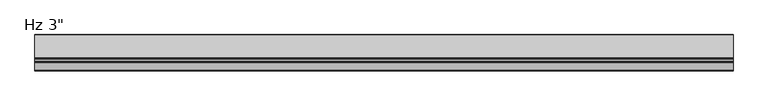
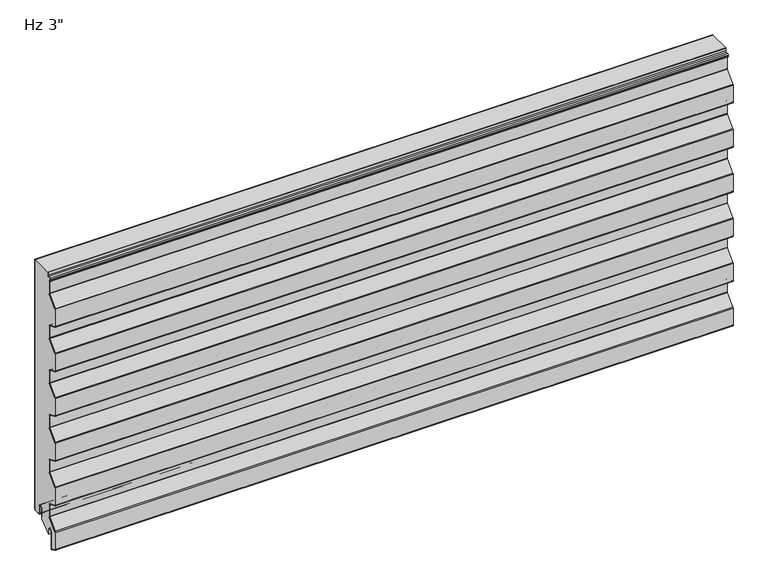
"""IFC4 building model written with IfcOpenShell, lengths in millimetres: plate geometry."""

from ifc_helpers import new_model, si_unit, point, frame, frame_2d, origin, place, context, project, spatial, polyline, circle_curve, trimmed, segment, composite_curve, outline, extrude, source, transform, mapped, element, save


def plate_af4c6692(model_context):
    return source(origin(), model_context, "Body", "SweptSolid", [
        extrude(outline(composite_curve([segment(polyline([(-26.4011912, 19.05), (-26.4011912, -3.1976612), (-49.233822, -23.01875), (-51.3886912, -23.01875), (-51.3886912, -11.90625)]), True, "CONTINUOUS"), segment(trimmed(circle_curve(frame_2d((-56.3574412, -11.90625)), 4.96875), [point((-51.3886912, -11.90625))], [point((-61.3261912, -11.90625))], True, "CARTESIAN"), True, "CONTINUOUS"), segment(polyline([(-61.3261912, -11.90625), (-61.3261912, -48.8194049)]), True, "CONTINUOUS"), segment(trimmed(circle_curve(frame_2d((-62.7074412, -48.8194049)), 1.38125), [point((-61.3261912, -48.8194049))], [point((-63.2666208, -50.0824052))], False, "CARTESIAN"), True, "CONTINUOUS"), segment(polyline([(-63.2666208, -50.0824052), (-74.3779296, -45.1629946)]), True, "CONTINUOUS"), segment(trimmed(circle_curve(frame_2d((-73.81875, -43.8999943)), 1.38125), [point((-74.3779296, -45.1629946))], [point((-75.2, -43.8999943))], False, "CARTESIAN"), True, "CONTINUOUS"), segment(polyline([(-75.2, -43.8999943), (-75.2, -5.0536946)]), True, "CONTINUOUS"), segment(trimmed(circle_curve(frame_2d((-73.1012, -5.0536946)), 2.0988), [point((-75.2, -5.0536946))], [point((-74.6092077, -3.5939431))], False, "CARTESIAN"), True, "CONTINUOUS"), segment(polyline([(-74.6092077, -3.5939431), (-54.4145567, 17.2682996)]), True, "CONTINUOUS"), segment(trimmed(circle_curve(frame_2d((-56.2737, 19.0679503)), 2.5875), [point((-54.4145567, 17.2682996))], [point((-53.6862, 19.0679503))], True, "CARTESIAN"), True, "CONTINUOUS"), segment(polyline([(-53.6862, 19.0679503), (-53.6862, 45.5917981)]), True, "CONTINUOUS"), segment(trimmed(circle_curve(frame_2d((-56.2737, 45.5917981)), 2.5875), [point((-53.6862, 45.5917981))], [point((-55.2261871, 47.9577806))], True, "CARTESIAN"), True, "CONTINUOUS"), segment(polyline([(-55.2261871, 47.9577806), (-74.3779296, 56.4370054)]), True, "CONTINUOUS"), segment(trimmed(circle_curve(frame_2d((-73.81875, 57.7000057)), 1.38125), [point((-74.3779296, 56.4370054))], [point((-75.2, 57.7000057))], False, "CARTESIAN"), True, "CONTINUOUS"), segment(polyline([(-75.2, 57.7000057), (-75.2, 96.8367131)]), True, "CONTINUOUS"), segment(trimmed(circle_curve(frame_2d((-73.81875, 96.8367131)), 1.38125), [point((-75.2, 96.8367131))], [point((-74.8111912, 97.7973962))], False, "CARTESIAN"), True, "CONTINUOUS"), segment(polyline([(-74.8111912, 97.7973962), (-54.4145567, 118.8682996)]), True, "CONTINUOUS"), segment(trimmed(circle_curve(frame_2d((-56.2737, 120.6679503)), 2.5875), [point((-54.4145567, 118.8682996))], [point((-53.6862, 120.6679503))], True, "CARTESIAN"), True, "CONTINUOUS"), segment(polyline([(-53.6862, 120.6679503), (-53.6862, 147.1917981)]), True, "CONTINUOUS"), segment(trimmed(circle_curve(frame_2d((-56.2737, 147.1917981)), 2.5875), [point((-53.6862, 147.1917981))], [point((-55.2261871, 149.5577806))], True, "CARTESIAN"), True, "CONTINUOUS"), segment(polyline([(-55.2261871, 149.5577806), (-74.3779296, 158.0370054)]), True, "CONTINUOUS"), segment(trimmed(circle_curve(frame_2d((-73.81875, 159.3000057)), 1.38125), [point((-74.3779296, 158.0370054))], [point((-75.2, 159.3000057))], False, "CARTESIAN"), True, "CONTINUOUS"), segment(polyline([(-75.2, 159.3000057), (-75.2, 198.4367131)]), True, "CONTINUOUS"), segment(trimmed(circle_curve(frame_2d((-73.81875, 198.4367131)), 1.38125), [point((-75.2, 198.4367131))], [point((-74.8111912, 199.3973962))], False, "CARTESIAN"), True, "CONTINUOUS"), segment(polyline([(-74.8111912, 199.3973962), (-54.4145567, 220.4682996)]), True, "CONTINUOUS"), segment(trimmed(circle_curve(frame_2d((-56.2737, 222.2679503)), 2.5875), [point((-54.4145567, 220.4682996))], [point((-53.6862, 222.2679503))], True, "CARTESIAN"), True, "CONTINUOUS"), segment(polyline([(-53.6862, 222.2679503), (-53.6862, 248.7917981)]), True, "CONTINUOUS"), segment(trimmed(circle_curve(frame_2d((-56.2737, 248.7917981)), 2.5875), [point((-53.6862, 248.7917981))], [point((-55.2261871, 251.1577806))], True, "CARTESIAN"), True, "CONTINUOUS"), segment(polyline([(-55.2261871, 251.1577806), (-74.3779296, 259.6370054)]), True, "CONTINUOUS"), segment(trimmed(circle_curve(frame_2d((-73.81875, 260.9000057)), 1.38125), [point((-74.3779296, 259.6370054))], [point((-75.2, 260.9000057))], False, "CARTESIAN"), True, "CONTINUOUS"), segment(polyline([(-75.2, 260.9000057), (-75.2, 300.0367131)]), True, "CONTINUOUS"), segment(trimmed(circle_curve(frame_2d((-73.81875, 300.0367131)), 1.38125), [point((-75.2, 300.0367131))], [point((-74.8111912, 300.9973962))], False, "CARTESIAN"), True, "CONTINUOUS"), segment(polyline([(-74.8111912, 300.9973962), (-54.4145567, 322.0682996)]), True, "CONTINUOUS"), segment(trimmed(circle_curve(frame_2d((-56.2737, 323.8679503)), 2.5875), [point((-54.4145567, 322.0682996))], [point((-53.6862, 323.8679503))], True, "CARTESIAN"), True, "CONTINUOUS"), segment(polyline([(-53.6862, 323.8679503), (-53.6862, 350.3917981)]), True, "CONTINUOUS"), segment(trimmed(circle_curve(frame_2d((-56.2737, 350.3917981)), 2.5875), [point((-53.6862, 350.3917981))], [point((-55.2261871, 352.7577806))], True, "CARTESIAN"), True, "CONTINUOUS"), segment(polyline([(-55.2261871, 352.7577806), (-74.3779296, 361.2370054)]), True, "CONTINUOUS"), segment(trimmed(circle_curve(frame_2d((-73.81875, 362.5000057)), 1.38125), [point((-74.3779296, 361.2370054))], [point((-75.2, 362.5000057))], False, "CARTESIAN"), True, "CONTINUOUS"), segment(polyline([(-75.2, 362.5000057), (-75.2, 401.6367131)]), True, "CONTINUOUS"), segment(trimmed(circle_curve(frame_2d((-73.81875, 401.6367131)), 1.38125), [point((-75.2, 401.6367131))], [point((-74.8111912, 402.5973962))], False, "CARTESIAN"), True, "CONTINUOUS"), segment(polyline([(-74.8111912, 402.5973962), (-54.4145567, 423.6682996)]), True, "CONTINUOUS"), segment(trimmed(circle_curve(frame_2d((-56.2737, 425.4679503)), 2.5875), [point((-54.4145567, 423.6682996))], [point((-53.6862, 425.4679503))], True, "CARTESIAN"), True, "CONTINUOUS"), segment(polyline([(-53.6862, 425.4679503), (-53.6862, 451.9917981)]), True, "CONTINUOUS"), segment(trimmed(circle_curve(frame_2d((-56.2737, 451.9917981)), 2.5875), [point((-53.6862, 451.9917981))], [point((-55.2261871, 454.3577806))], True, "CARTESIAN"), True, "CONTINUOUS"), segment(polyline([(-55.2261871, 454.3577806), (-74.3779296, 462.8370054)]), True, "CONTINUOUS"), segment(trimmed(circle_curve(frame_2d((-73.81875, 464.1000057)), 1.38125), [point((-74.3779296, 462.8370054))], [point((-75.2, 464.1000057))], False, "CARTESIAN"), True, "CONTINUOUS"), segment(polyline([(-75.2, 464.1000057), (-75.2, 503.2367131)]), True, "CONTINUOUS"), segment(trimmed(circle_curve(frame_2d((-73.81875, 503.2367131)), 1.38125), [point((-75.2, 503.2367131))], [point((-74.8111912, 504.1973962))], False, "CARTESIAN"), True, "CONTINUOUS"), segment(polyline([(-74.8111912, 504.1973962), (-54.4145567, 525.2682996)]), True, "CONTINUOUS"), segment(trimmed(circle_curve(frame_2d((-56.2737, 527.0679503)), 2.5875), [point((-54.4145567, 525.2682996))], [point((-53.6862, 527.0679503))], True, "CARTESIAN"), True, "CONTINUOUS"), segment(polyline([(-53.6862, 527.0679503), (-53.6862, 553.5917981)]), True, "CONTINUOUS"), segment(trimmed(circle_curve(frame_2d((-56.2737, 553.5917981)), 2.5875), [point((-53.6862, 553.5917981))], [point((-55.2261871, 555.9577806))], True, "CARTESIAN"), True, "CONTINUOUS"), segment(polyline([(-55.2261871, 555.9577806), (-56.9166208, 556.7062016)]), True, "CONTINUOUS"), segment(trimmed(circle_curve(frame_2d((-56.3574412, 557.9692019)), 1.38125), [point((-56.9166208, 556.7062016))], [point((-57.7386912, 557.9692019))], False, "CARTESIAN"), True, "CONTINUOUS"), segment(polyline([(-57.7386912, 557.9692019), (-57.7386912, 560.2967085)]), True, "CONTINUOUS"), segment(trimmed(circle_curve(frame_2d((-56.3574412, 560.2967085)), 1.38125), [point((-57.7386912, 560.2967085))], [point((-56.4297302, 561.6760655))], False, "CARTESIAN"), True, "CONTINUOUS"), segment(polyline([(-56.4297302, 561.6760655), (-50.6657719, 561.9781418)]), True, "CONTINUOUS"), segment(trimmed(circle_curve(frame_2d((-50.8011912, 564.5620957)), 2.5875), [point((-50.6657719, 561.9781418))], [point((-48.2136912, 564.5620957))], True, "CARTESIAN"), True, "CONTINUOUS"), segment(polyline([(-48.2136912, 564.5620957), (-48.2136912, 571.2), (-1.0011912, 571.2), (-1.0011912, 3.175)]), True, "CONTINUOUS"), segment(trimmed(circle_curve(frame_2d((-2.3824412, 3.175)), 1.38125), [point((-1.0011912, 3.175))], [point((-2.3824412, 1.79375))], False, "CARTESIAN"), True, "CONTINUOUS"), segment(polyline([(-2.3824412, 1.79375), (-15.0824412, 1.79375)]), True, "CONTINUOUS"), segment(trimmed(circle_curve(frame_2d((-15.0824412, 3.175)), 1.38125), [point((-15.0824412, 1.79375))], [point((-16.4636912, 3.175))], False, "CARTESIAN"), True, "CONTINUOUS"), segment(polyline([(-16.4636912, 3.175), (-16.4636912, 19.05)]), True, "CONTINUOUS"), segment(trimmed(circle_curve(frame_2d((-21.4324412, 19.05)), 4.96875), [point((-16.4636912, 19.05))], [point((-26.4011912, 19.05))], True, "CARTESIAN"), True, "CONTINUOUS")], self_intersect=False)), frame((-730.0, 0.0, 0.0), z_axis=(1.0, 0.0, 0.0), x_axis=(0.0, 1.0, 0.0)), (0.0, 0.0, 1.0), 1460.0),
        extrude(outline(composite_curve([segment(polyline([(-25.4, 0.79375), (-26.4, 0.79375), (-26.4, 19.05)]), True, "CONTINUOUS"), segment(trimmed(circle_curve(frame_2d((-21.43125, 19.05)), 4.96875), [point((-26.4, 19.05))], [point((-16.4625, 19.05))], False, "CARTESIAN"), True, "CONTINUOUS"), segment(polyline([(-16.4625, 19.05), (-16.4625, 3.175)]), True, "CONTINUOUS"), segment(trimmed(circle_curve(frame_2d((-15.08125, 3.175)), 1.38125), [point((-16.4625, 3.175))], [point((-15.08125, 1.79375))], True, "CARTESIAN"), True, "CONTINUOUS"), segment(polyline([(-15.08125, 1.79375), (-2.38125, 1.79375)]), True, "CONTINUOUS"), segment(trimmed(circle_curve(frame_2d((-2.38125, 3.175)), 1.38125), [point((-2.38125, 1.79375))], [point((-1.0, 3.175))], True, "CARTESIAN"), True, "CONTINUOUS"), segment(polyline([(-1.0, 3.175), (-1.0, 571.2), (0.0, 571.2), (0.0, 3.175)]), True, "CONTINUOUS"), segment(trimmed(circle_curve(frame_2d((-2.38125, 3.175)), 2.38125), [point((0.0, 3.175))], [point((-2.38125, 0.79375))], False, "CARTESIAN"), True, "CONTINUOUS"), segment(polyline([(-2.38125, 0.79375), (-15.08125, 0.79375)]), True, "CONTINUOUS"), segment(trimmed(circle_curve(frame_2d((-15.08125, 3.175)), 2.38125), [point((-15.08125, 0.79375))], [point((-17.4625, 3.175))], False, "CARTESIAN"), True, "CONTINUOUS"), segment(polyline([(-17.4625, 3.175), (-17.4625, 19.05)]), True, "CONTINUOUS"), segment(trimmed(circle_curve(frame_2d((-21.43125, 19.05)), 3.96875), [point((-17.4625, 19.05))], [point((-25.4, 19.05))], True, "CARTESIAN"), True, "CONTINUOUS"), segment(polyline([(-25.4, 19.05), (-25.4, 0.79375)]), True, "CONTINUOUS")], self_intersect=False)), frame((-730.0, 0.0, 0.0), z_axis=(1.0, 0.0, 0.0), x_axis=(0.0, 1.0, 0.0)), (0.0, 0.0, 1.0), 1460.0),
        extrude(outline(composite_curve([segment(polyline([(-60.3261912, -11.90625), (-60.3261912, -48.8194049)]), True, "CONTINUOUS"), segment(trimmed(circle_curve(frame_2d((-62.7074412, -48.8194049)), 2.38125), [point((-60.3261912, -48.8194049))], [point((-63.6714567, -50.9967946))], False, "CARTESIAN"), True, "CONTINUOUS"), segment(polyline([(-63.6714567, -50.9967946), (-74.7827655, -46.0773839)]), True, "CONTINUOUS"), segment(trimmed(circle_curve(frame_2d((-73.81875, -43.8999943)), 2.38125), [point((-74.7827655, -46.0773839))], [point((-76.2, -43.8999943))], False, "CARTESIAN"), True, "CONTINUOUS"), segment(polyline([(-76.2, -43.8999943), (-76.2, -5.0536946)]), True, "CONTINUOUS"), segment(trimmed(circle_curve(frame_2d((-73.1012, -5.0536946)), 3.0988), [point((-76.2, -5.0536946))], [point((-75.3277172, -2.8984259))], False, "CARTESIAN"), True, "CONTINUOUS"), segment(polyline([(-75.3277172, -2.8984259), (-55.1330662, 17.9638168)]), True, "CONTINUOUS"), segment(trimmed(circle_curve(frame_2d((-56.2737, 19.0679503)), 1.5875), [point((-55.1330662, 17.9638168))], [point((-54.6862, 19.0679503))], True, "CARTESIAN"), True, "CONTINUOUS"), segment(polyline([(-54.6862, 19.0679503), (-54.6862, 45.5917981)]), True, "CONTINUOUS"), segment(trimmed(circle_curve(frame_2d((-56.2737, 45.5917981)), 1.5875), [point((-54.6862, 45.5917981))], [point((-55.631023, 47.0433912))], True, "CARTESIAN"), True, "CONTINUOUS"), segment(polyline([(-55.631023, 47.0433912), (-74.7827655, 55.5226161)]), True, "CONTINUOUS"), segment(trimmed(circle_curve(frame_2d((-73.81875, 57.7000057)), 2.38125), [point((-74.7827655, 55.5226161))], [point((-76.2, 57.7000057))], False, "CARTESIAN"), True, "CONTINUOUS"), segment(polyline([(-76.2, 57.7000057), (-76.2, 96.8367131)]), True, "CONTINUOUS"), segment(trimmed(circle_curve(frame_2d((-73.81875, 96.8367131)), 2.38125), [point((-76.2, 96.8367131))], [point((-75.5297007, 98.4929134))], False, "CARTESIAN"), True, "CONTINUOUS"), segment(polyline([(-75.5297007, 98.4929134), (-55.1330662, 119.5638168)]), True, "CONTINUOUS"), segment(trimmed(circle_curve(frame_2d((-56.2737, 120.6679503)), 1.5875), [point((-55.1330662, 119.5638168))], [point((-54.6862, 120.6679503))], True, "CARTESIAN"), True, "CONTINUOUS"), segment(polyline([(-54.6862, 120.6679503), (-54.6862, 147.1917981)]), True, "CONTINUOUS"), segment(trimmed(circle_curve(frame_2d((-56.2737, 147.1917981)), 1.5875), [point((-54.6862, 147.1917981))], [point((-55.631023, 148.6433912))], True, "CARTESIAN"), True, "CONTINUOUS"), segment(polyline([(-55.631023, 148.6433912), (-74.7827655, 157.1226161)]), True, "CONTINUOUS"), segment(trimmed(circle_curve(frame_2d((-73.81875, 159.3000057)), 2.38125), [point((-74.7827655, 157.1226161))], [point((-76.2, 159.3000057))], False, "CARTESIAN"), True, "CONTINUOUS"), segment(polyline([(-76.2, 159.3000057), (-76.2, 198.4367131)]), True, "CONTINUOUS"), segment(trimmed(circle_curve(frame_2d((-73.81875, 198.4367131)), 2.38125), [point((-76.2, 198.4367131))], [point((-75.5297007, 200.0929134))], False, "CARTESIAN"), True, "CONTINUOUS"), segment(polyline([(-75.5297007, 200.0929134), (-55.1330662, 221.1638168)]), True, "CONTINUOUS"), segment(trimmed(circle_curve(frame_2d((-56.2737, 222.2679503)), 1.5875), [point((-55.1330662, 221.1638168))], [point((-54.6862, 222.2679503))], True, "CARTESIAN"), True, "CONTINUOUS"), segment(polyline([(-54.6862, 222.2679503), (-54.6862, 248.7917981)]), True, "CONTINUOUS"), segment(trimmed(circle_curve(frame_2d((-56.2737, 248.7917981)), 1.5875), [point((-54.6862, 248.7917981))], [point((-55.631023, 250.2433912))], True, "CARTESIAN"), True, "CONTINUOUS"), segment(polyline([(-55.631023, 250.2433912), (-74.7827655, 258.7226161)]), True, "CONTINUOUS"), segment(trimmed(circle_curve(frame_2d((-73.81875, 260.9000057)), 2.38125), [point((-74.7827655, 258.7226161))], [point((-76.2, 260.9000057))], False, "CARTESIAN"), True, "CONTINUOUS"), segment(polyline([(-76.2, 260.9000057), (-76.2, 300.0367131)]), True, "CONTINUOUS"), segment(trimmed(circle_curve(frame_2d((-73.81875, 300.0367131)), 2.38125), [point((-76.2, 300.0367131))], [point((-75.5297007, 301.6929134))], False, "CARTESIAN"), True, "CONTINUOUS"), segment(polyline([(-75.5297007, 301.6929134), (-55.1330662, 322.7638168)]), True, "CONTINUOUS"), segment(trimmed(circle_curve(frame_2d((-56.2737, 323.8679503)), 1.5875), [point((-55.1330662, 322.7638168))], [point((-54.6862, 323.8679503))], True, "CARTESIAN"), True, "CONTINUOUS"), segment(polyline([(-54.6862, 323.8679503), (-54.6862, 350.3917981)]), True, "CONTINUOUS"), segment(trimmed(circle_curve(frame_2d((-56.2737, 350.3917981)), 1.5875), [point((-54.6862, 350.3917981))], [point((-55.631023, 351.8433912))], True, "CARTESIAN"), True, "CONTINUOUS"), segment(polyline([(-55.631023, 351.8433912), (-74.7827655, 360.3226161)]), True, "CONTINUOUS"), segment(trimmed(circle_curve(frame_2d((-73.81875, 362.5000057)), 2.38125), [point((-74.7827655, 360.3226161))], [point((-76.2, 362.5000057))], False, "CARTESIAN"), True, "CONTINUOUS"), segment(polyline([(-76.2, 362.5000057), (-76.2, 401.6367131)]), True, "CONTINUOUS"), segment(trimmed(circle_curve(frame_2d((-73.81875, 401.6367131)), 2.38125), [point((-76.2, 401.6367131))], [point((-75.5297007, 403.2929134))], False, "CARTESIAN"), True, "CONTINUOUS"), segment(polyline([(-75.5297007, 403.2929134), (-55.1330662, 424.3638168)]), True, "CONTINUOUS"), segment(trimmed(circle_curve(frame_2d((-56.2737, 425.4679503)), 1.5875), [point((-55.1330662, 424.3638168))], [point((-54.6862, 425.4679503))], True, "CARTESIAN"), True, "CONTINUOUS"), segment(polyline([(-54.6862, 425.4679503), (-54.6862, 451.9917981)]), True, "CONTINUOUS"), segment(trimmed(circle_curve(frame_2d((-56.2737, 451.9917981)), 1.5875), [point((-54.6862, 451.9917981))], [point((-55.631023, 453.4433912))], True, "CARTESIAN"), True, "CONTINUOUS"), segment(polyline([(-55.631023, 453.4433912), (-74.7827655, 461.9226161)]), True, "CONTINUOUS"), segment(trimmed(circle_curve(frame_2d((-73.81875, 464.1000057)), 2.38125), [point((-74.7827655, 461.9226161))], [point((-76.2, 464.1000057))], False, "CARTESIAN"), True, "CONTINUOUS"), segment(polyline([(-76.2, 464.1000057), (-76.2, 503.2367131)]), True, "CONTINUOUS"), segment(trimmed(circle_curve(frame_2d((-73.81875, 503.2367131)), 2.38125), [point((-76.2, 503.2367131))], [point((-75.5297007, 504.8929134))], False, "CARTESIAN"), True, "CONTINUOUS"), segment(polyline([(-75.5297007, 504.8929134), (-55.1330662, 525.9638168)]), True, "CONTINUOUS"), segment(trimmed(circle_curve(frame_2d((-56.2737, 527.0679503)), 1.5875), [point((-55.1330662, 525.9638168))], [point((-54.6862, 527.0679503))], True, "CARTESIAN"), True, "CONTINUOUS"), segment(polyline([(-54.6862, 527.0679503), (-54.6862, 553.5917981)]), True, "CONTINUOUS"), segment(trimmed(circle_curve(frame_2d((-56.2737, 553.5917981)), 1.5875), [point((-54.6862, 553.5917981))], [point((-55.631023, 555.0433912))], True, "CARTESIAN"), True, "CONTINUOUS"), segment(polyline([(-55.631023, 555.0433912), (-57.3214567, 555.7918123)]), True, "CONTINUOUS"), segment(trimmed(circle_curve(frame_2d((-56.3574412, 557.9692019)), 2.38125), [point((-57.3214567, 555.7918123))], [point((-58.7386912, 557.9692019))], False, "CARTESIAN"), True, "CONTINUOUS"), segment(polyline([(-58.7386912, 557.9692019), (-58.7386912, 560.2967085)]), True, "CONTINUOUS"), segment(trimmed(circle_curve(frame_2d((-56.3574412, 560.2967085)), 2.38125), [point((-58.7386912, 560.2967085))], [point((-56.4820662, 562.6746951))], False, "CARTESIAN"), True, "CONTINUOUS"), segment(polyline([(-56.4820662, 562.6746951), (-50.7181078, 562.9767713)]), True, "CONTINUOUS"), segment(trimmed(circle_curve(frame_2d((-50.8011912, 564.5620957)), 1.5875), [point((-50.7181078, 562.9767713))], [point((-49.2136912, 564.5620957))], True, "CARTESIAN"), True, "CONTINUOUS"), segment(polyline([(-49.2136912, 564.5620957), (-49.2136912, 571.2), (-48.2136912, 571.2), (-48.2136912, 564.5620957)]), True, "CONTINUOUS"), segment(trimmed(circle_curve(frame_2d((-50.8011912, 564.5620957)), 2.5875), [point((-48.2136912, 564.5620957))], [point((-50.6657719, 561.9781418))], False, "CARTESIAN"), True, "CONTINUOUS"), segment(polyline([(-50.6657719, 561.9781418), (-56.4297302, 561.6760655)]), True, "CONTINUOUS"), segment(trimmed(circle_curve(frame_2d((-56.3574412, 560.2967085)), 1.38125), [point((-56.4297302, 561.6760655))], [point((-57.7386912, 560.2967085))], True, "CARTESIAN"), True, "CONTINUOUS"), segment(polyline([(-57.7386912, 560.2967085), (-57.7386912, 557.9692019)]), True, "CONTINUOUS"), segment(trimmed(circle_curve(frame_2d((-56.3574412, 557.9692019)), 1.38125), [point((-57.7386912, 557.9692019))], [point((-56.9166208, 556.7062016))], True, "CARTESIAN"), True, "CONTINUOUS"), segment(polyline([(-56.9166208, 556.7062016), (-55.2261871, 555.9577806)]), True, "CONTINUOUS"), segment(trimmed(circle_curve(frame_2d((-56.2737, 553.5917981)), 2.5875), [point((-55.2261871, 555.9577806))], [point((-53.6862, 553.5917981))], False, "CARTESIAN"), True, "CONTINUOUS"), segment(polyline([(-53.6862, 553.5917981), (-53.6862, 527.0679503)]), True, "CONTINUOUS"), segment(trimmed(circle_curve(frame_2d((-56.2737, 527.0679503)), 2.5875), [point((-53.6862, 527.0679503))], [point((-54.4145567, 525.2682996))], False, "CARTESIAN"), True, "CONTINUOUS"), segment(polyline([(-54.4145567, 525.2682996), (-74.8111912, 504.1973962)]), True, "CONTINUOUS"), segment(trimmed(circle_curve(frame_2d((-73.81875, 503.2367131)), 1.38125), [point((-74.8111912, 504.1973962))], [point((-75.2, 503.2367131))], True, "CARTESIAN"), True, "CONTINUOUS"), segment(polyline([(-75.2, 503.2367131), (-75.2, 464.1000057)]), True, "CONTINUOUS"), segment(trimmed(circle_curve(frame_2d((-73.81875, 464.1000057)), 1.38125), [point((-75.2, 464.1000057))], [point((-74.3779296, 462.8370054))], True, "CARTESIAN"), True, "CONTINUOUS"), segment(polyline([(-74.3779296, 462.8370054), (-55.2261871, 454.3577806)]), True, "CONTINUOUS"), segment(trimmed(circle_curve(frame_2d((-56.2737, 451.9917981)), 2.5875), [point((-55.2261871, 454.3577806))], [point((-53.6862, 451.9917981))], False, "CARTESIAN"), True, "CONTINUOUS"), segment(polyline([(-53.6862, 451.9917981), (-53.6862, 425.4679503)]), True, "CONTINUOUS"), segment(trimmed(circle_curve(frame_2d((-56.2737, 425.4679503)), 2.5875), [point((-53.6862, 425.4679503))], [point((-54.4145567, 423.6682996))], False, "CARTESIAN"), True, "CONTINUOUS"), segment(polyline([(-54.4145567, 423.6682996), (-74.8111912, 402.5973962)]), True, "CONTINUOUS"), segment(trimmed(circle_curve(frame_2d((-73.81875, 401.6367131)), 1.38125), [point((-74.8111912, 402.5973962))], [point((-75.2, 401.6367131))], True, "CARTESIAN"), True, "CONTINUOUS"), segment(polyline([(-75.2, 401.6367131), (-75.2, 362.5000057)]), True, "CONTINUOUS"), segment(trimmed(circle_curve(frame_2d((-73.81875, 362.5000057)), 1.38125), [point((-75.2, 362.5000057))], [point((-74.3779296, 361.2370054))], True, "CARTESIAN"), True, "CONTINUOUS"), segment(polyline([(-74.3779296, 361.2370054), (-55.2261871, 352.7577806)]), True, "CONTINUOUS"), segment(trimmed(circle_curve(frame_2d((-56.2737, 350.3917981)), 2.5875), [point((-55.2261871, 352.7577806))], [point((-53.6862, 350.3917981))], False, "CARTESIAN"), True, "CONTINUOUS"), segment(polyline([(-53.6862, 350.3917981), (-53.6862, 323.8679503)]), True, "CONTINUOUS"), segment(trimmed(circle_curve(frame_2d((-56.2737, 323.8679503)), 2.5875), [point((-53.6862, 323.8679503))], [point((-54.4145567, 322.0682996))], False, "CARTESIAN"), True, "CONTINUOUS"), segment(polyline([(-54.4145567, 322.0682996), (-74.8111912, 300.9973962)]), True, "CONTINUOUS"), segment(trimmed(circle_curve(frame_2d((-73.81875, 300.0367131)), 1.38125), [point((-74.8111912, 300.9973962))], [point((-75.2, 300.0367131))], True, "CARTESIAN"), True, "CONTINUOUS"), segment(polyline([(-75.2, 300.0367131), (-75.2, 260.9000057)]), True, "CONTINUOUS"), segment(trimmed(circle_curve(frame_2d((-73.81875, 260.9000057)), 1.38125), [point((-75.2, 260.9000057))], [point((-74.3779296, 259.6370054))], True, "CARTESIAN"), True, "CONTINUOUS"), segment(polyline([(-74.3779296, 259.6370054), (-55.2261871, 251.1577806)]), True, "CONTINUOUS"), segment(trimmed(circle_curve(frame_2d((-56.2737, 248.7917981)), 2.5875), [point((-55.2261871, 251.1577806))], [point((-53.6862, 248.7917981))], False, "CARTESIAN"), True, "CONTINUOUS"), segment(polyline([(-53.6862, 248.7917981), (-53.6862, 222.2679503)]), True, "CONTINUOUS"), segment(trimmed(circle_curve(frame_2d((-56.2737, 222.2679503)), 2.5875), [point((-53.6862, 222.2679503))], [point((-54.4145567, 220.4682996))], False, "CARTESIAN"), True, "CONTINUOUS"), segment(polyline([(-54.4145567, 220.4682996), (-74.8111912, 199.3973962)]), True, "CONTINUOUS"), segment(trimmed(circle_curve(frame_2d((-73.81875, 198.4367131)), 1.38125), [point((-74.8111912, 199.3973962))], [point((-75.2, 198.4367131))], True, "CARTESIAN"), True, "CONTINUOUS"), segment(polyline([(-75.2, 198.4367131), (-75.2, 159.3000057)]), True, "CONTINUOUS"), segment(trimmed(circle_curve(frame_2d((-73.81875, 159.3000057)), 1.38125), [point((-75.2, 159.3000057))], [point((-74.3779296, 158.0370054))], True, "CARTESIAN"), True, "CONTINUOUS"), segment(polyline([(-74.3779296, 158.0370054), (-55.2261871, 149.5577806)]), True, "CONTINUOUS"), segment(trimmed(circle_curve(frame_2d((-56.2737, 147.1917981)), 2.5875), [point((-55.2261871, 149.5577806))], [point((-53.6862, 147.1917981))], False, "CARTESIAN"), True, "CONTINUOUS"), segment(polyline([(-53.6862, 147.1917981), (-53.6862, 120.6679503)]), True, "CONTINUOUS"), segment(trimmed(circle_curve(frame_2d((-56.2737, 120.6679503)), 2.5875), [point((-53.6862, 120.6679503))], [point((-54.4145567, 118.8682996))], False, "CARTESIAN"), True, "CONTINUOUS"), segment(polyline([(-54.4145567, 118.8682996), (-74.8111912, 97.7973962)]), True, "CONTINUOUS"), segment(trimmed(circle_curve(frame_2d((-73.81875, 96.8367131)), 1.38125), [point((-74.8111912, 97.7973962))], [point((-75.2, 96.8367131))], True, "CARTESIAN"), True, "CONTINUOUS"), segment(polyline([(-75.2, 96.8367131), (-75.2, 57.7000057)]), True, "CONTINUOUS"), segment(trimmed(circle_curve(frame_2d((-73.81875, 57.7000057)), 1.38125), [point((-75.2, 57.7000057))], [point((-74.3779296, 56.4370054))], True, "CARTESIAN"), True, "CONTINUOUS"), segment(polyline([(-74.3779296, 56.4370054), (-55.2261871, 47.9577806)]), True, "CONTINUOUS"), segment(trimmed(circle_curve(frame_2d((-56.2737, 45.5917981)), 2.5875), [point((-55.2261871, 47.9577806))], [point((-53.6862, 45.5917981))], False, "CARTESIAN"), True, "CONTINUOUS"), segment(polyline([(-53.6862, 45.5917981), (-53.6862, 19.0679503)]), True, "CONTINUOUS"), segment(trimmed(circle_curve(frame_2d((-56.2737, 19.0679503)), 2.5875), [point((-53.6862, 19.0679503))], [point((-54.4145567, 17.2682996))], False, "CARTESIAN"), True, "CONTINUOUS"), segment(polyline([(-54.4145567, 17.2682996), (-74.6092077, -3.5939431)]), True, "CONTINUOUS"), segment(trimmed(circle_curve(frame_2d((-73.1012, -5.0536946)), 2.0988), [point((-74.6092077, -3.5939431))], [point((-75.2, -5.0536946))], True, "CARTESIAN"), True, "CONTINUOUS"), segment(polyline([(-75.2, -5.0536946), (-75.2, -43.8999943)]), True, "CONTINUOUS"), segment(trimmed(circle_curve(frame_2d((-73.81875, -43.8999943)), 1.38125), [point((-75.2, -43.8999943))], [point((-74.3779296, -45.1629946))], True, "CARTESIAN"), True, "CONTINUOUS"), segment(polyline([(-74.3779296, -45.1629946), (-63.2666208, -50.0824052)]), True, "CONTINUOUS"), segment(trimmed(circle_curve(frame_2d((-62.7074412, -48.8194049)), 1.38125), [point((-63.2666208, -50.0824052))], [point((-61.3261912, -48.8194049))], True, "CARTESIAN"), True, "CONTINUOUS"), segment(polyline([(-61.3261912, -48.8194049), (-61.3261912, -11.90625)]), True, "CONTINUOUS"), segment(trimmed(circle_curve(frame_2d((-56.3574412, -11.90625)), 4.96875), [point((-61.3261912, -11.90625))], [point((-51.3886912, -11.90625))], False, "CARTESIAN"), True, "CONTINUOUS"), segment(polyline([(-51.3886912, -11.90625), (-51.3886912, -23.01875), (-52.3886912, -23.01875), (-52.3886912, -11.90625)]), True, "CONTINUOUS"), segment(trimmed(circle_curve(frame_2d((-56.3574412, -11.90625)), 3.96875), [point((-52.3886912, -11.90625))], [point((-60.3261912, -11.90625))], True, "CARTESIAN"), True, "CONTINUOUS")], self_intersect=False)), frame((-730.0, 0.0, 0.0), z_axis=(1.0, 0.0, 0.0), x_axis=(0.0, 1.0, 0.0)), (0.0, 0.0, 1.0), 1460.0),
    ])


if __name__ == "__main__":
    model = new_model("IFC4")
    model_context = context("Model", 3, world=origin())
    ifc_project = project(units=[si_unit("LENGTHUNIT", "METRE", prefix="MILLI")], contexts=[model_context])
    site = spatial("IfcSite", under=ifc_project)
    building = spatial("IfcBuilding", under=site)
    placement = place(None, origin())
    plate_shape = plate_af4c6692(model_context)
    element("IfcPlate", 1, ObjectType="KIP-24-DWR-R19-CP-Hz-S : Hz 3\"", at=placement, inside=building, context=model_context, shape_type="MappedRepresentation", body=[
        mapped(plate_shape, transform((0.0, 0.0, 0.0), x_axis=(1.0, 0.0, 0.0), y_axis=(0.0, 1.0, 0.0), z_axis=(0.0, 0.0, 1.0))),
    ])
    save(model, "model.ifc")
